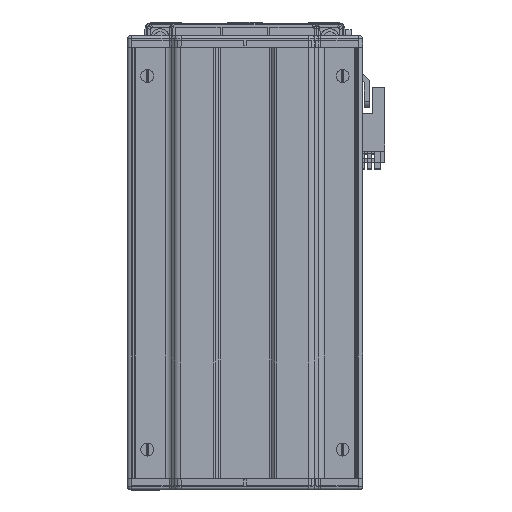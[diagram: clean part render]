
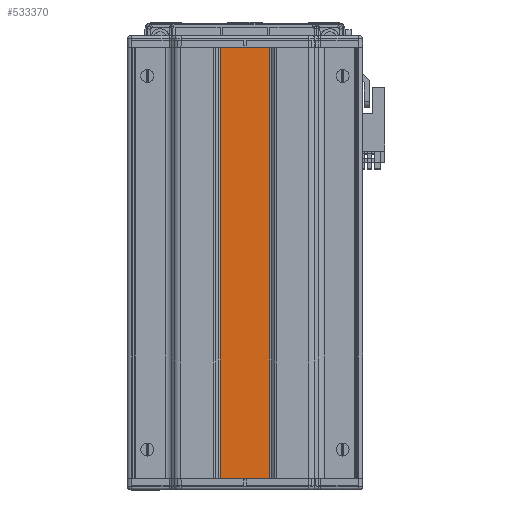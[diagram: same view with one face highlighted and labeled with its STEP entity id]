
A CAD part, top view. The second image highlights one B-rep face of the part: STEP entity #533370.
In plain terms, the highlighted planar face has unit normal (0, 0, 1) as drawn and (-1, 0, 0) by its records, which use the part's own axes.
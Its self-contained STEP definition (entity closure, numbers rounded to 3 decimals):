
#532850=CARTESIAN_POINT('',(-2.357,8.586,75.));
#532860=VERTEX_POINT('',#532850);
#532890=CARTESIAN_POINT('',(-2.357,8.586,75.));
#532900=DIRECTION('',(-0.,-0.,-1.));
#532910=VECTOR('',#532900,1000.);
#532920=LINE('',#532890,#532910);
#532930=CARTESIAN_POINT('',(-2.357,8.586,-75.));
#532940=VERTEX_POINT('',#532930);
#532950=EDGE_CURVE('',#532860,#532940,#532920,.T.);
#533070=CARTESIAN_POINT('',(-2.357,-8.586,75.));
#533080=DIRECTION('',(1.,0.,0.));
#533090=DIRECTION('',(0.,0.,-1.));
#533100=AXIS2_PLACEMENT_3D('',#533070,#533080,#533090);
#533110=PLANE('',#533100);
#533120=ORIENTED_EDGE('',*,*,#532950,.T.);
#533130=CARTESIAN_POINT('',(-2.357,8.586,75.));
#533140=DIRECTION('',(0.,-1.,0.));
#533150=VECTOR('',#533140,1000.);
#533160=LINE('',#533130,#533150);
#533170=CARTESIAN_POINT('',(-2.357,-8.586,75.));
#533180=VERTEX_POINT('',#533170);
#533190=EDGE_CURVE('',#532860,#533180,#533160,.T.);
#533200=ORIENTED_EDGE('',*,*,#533190,.F.);
#533210=CARTESIAN_POINT('',(-2.357,-8.586,75.));
#533220=DIRECTION('',(-0.,-0.,-1.));
#533230=VECTOR('',#533220,1000.);
#533240=LINE('',#533210,#533230);
#533250=CARTESIAN_POINT('',(-2.357,-8.586,-75.));
#533260=VERTEX_POINT('',#533250);
#533270=EDGE_CURVE('',#533180,#533260,#533240,.T.);
#533280=ORIENTED_EDGE('',*,*,#533270,.F.);
#533290=CARTESIAN_POINT('',(-2.357,-8.586,-75.));
#533300=DIRECTION('',(-0.,-1.,-0.));
#533310=VECTOR('',#533300,1000.);
#533320=LINE('',#533290,#533310);
#533330=EDGE_CURVE('',#532940,#533260,#533320,.T.);
#533340=ORIENTED_EDGE('',*,*,#533330,.T.);
#533350=EDGE_LOOP('',(#533340,#533280,#533200,#533120));
#533360=FACE_OUTER_BOUND('',#533350,.T.);
#533370=ADVANCED_FACE('',(#533360),#533110,.F.);
